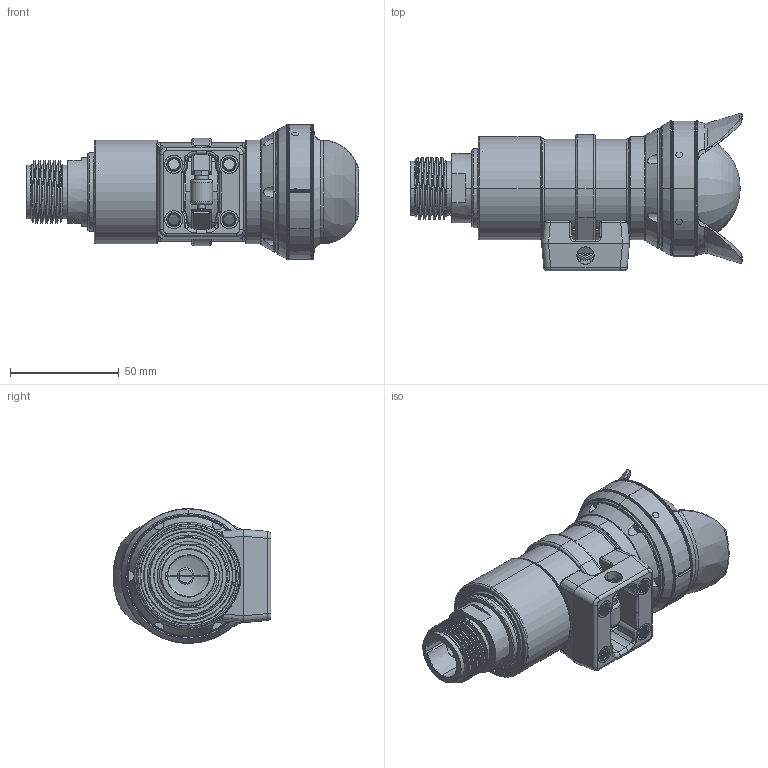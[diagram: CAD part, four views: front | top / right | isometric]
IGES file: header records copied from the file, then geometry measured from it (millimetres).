
Start section: SolidWorks IGES file using analytic representation for surfaces
Global section: file name: S:\3D_Product_Models\Cameras\HDMSC-D-MINL-0B-E-20140710a.IGS; native system: SolidWorks 2014; preprocessor: SolidWorks 2014; author: CJ_Chew; date: 140710.094326; units: inch
Bounding box: 152.48 x 72.47 x 61.82 mm (x, y, z)
Surface area: 53244.7 mm2 (no closed solid volume)
Topology: 0 solids, 0 shells, 613 faces, 9997 edges, 9987 vertices
Faces by surface type: revolution 325, bspline 288
